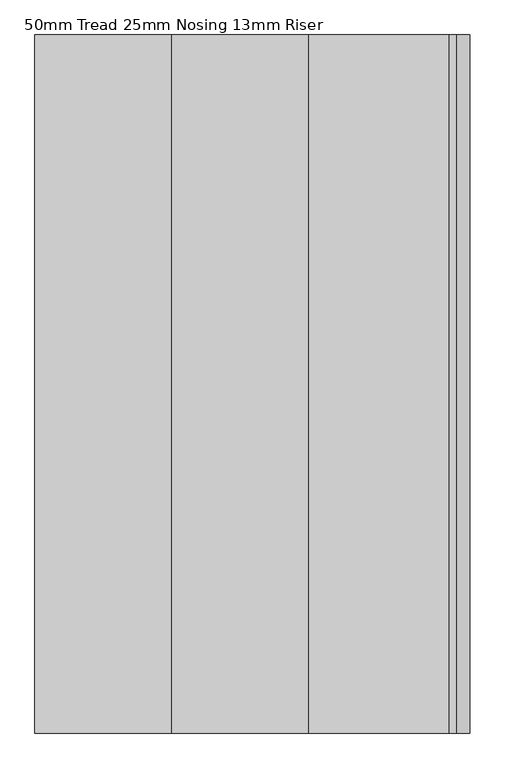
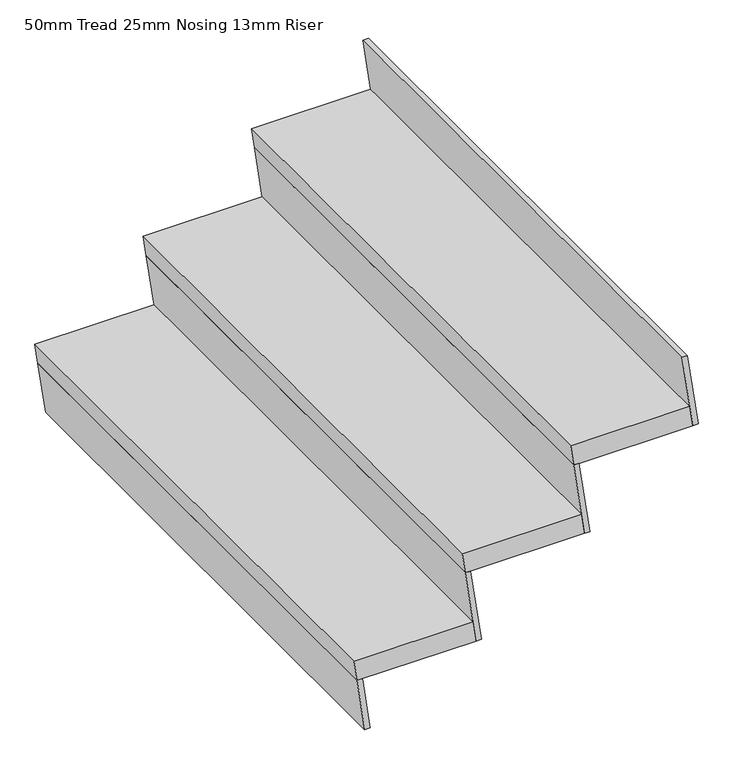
"""IFC4 building model written with IfcOpenShell, lengths in millimetres: stair flight geometry, 50mm Tread 25mm Nosing 13mm Riser."""

import ifcopenshell
import ifcopenshell.guid

model = None  # the IFC model being written
_history = None  # IfcOwnerHistory: only IFC2X3 demands one
_inside = {}  # id of a spatial element -> (the spatial element, [elements in it])
_under = {}  # id of a project, library or spatial element -> (it, [spatial elements below it])
_declared = {}  # id of a project -> (the project, [libraries it declares])
_typed = {}  # id of a type object -> (the type object, [elements of that type])
_made_of = {}  # id of a material, layer set ... -> (it, [elements and type objects made of it])


def new_model(schema):
    """Start an empty IFC model of exactly this schema.

    Asked for "IFC4X3", IfcOpenShell would pick the latest addendum, in which some entities
    have other attributes; the version numbers below select the first issue.
    IFC2X3 requires an IfcOwnerHistory on every rooted entity: one is made here for all.
    """
    global model, _history
    if schema == "IFC4X3":
        model = ifcopenshell.file(schema_version=(4, 3, 0, 0))
    else:
        model = ifcopenshell.file(schema=schema)
    _inside.clear()
    _under.clear()
    _declared.clear()
    _typed.clear()
    _made_of.clear()
    _history = None
    if model.schema == "IFC2X3":
        org = make("IfcOrganization", Name="unknown")
        user = make(
            "IfcPersonAndOrganization",
            ThePerson=make("IfcPerson", FamilyName="unknown"),
            TheOrganization=org,
        )
        app = make(
            "IfcApplication",
            ApplicationDeveloper=org,
            Version="unknown",
            ApplicationFullName="unknown",
            ApplicationIdentifier="unknown",
        )
        _history = make(
            "IfcOwnerHistory",
            OwningUser=user,
            OwningApplication=app,
            ChangeAction="ADDED",
            CreationDate=0,
        )
    return model


def make(cls, **values):
    """One entity of the class cls with the attributes given. An attribute that is None is left unset."""
    return model.create_entity(
        cls, **{name: value for name, value in values.items() if value is not None}
    )


def rooted(cls, **values):
    """An entity with a GlobalId (a new one), such as an element, a storey or a relation."""
    return make(cls, GlobalId=ifcopenshell.guid.new(), OwnerHistory=_history, **values)


def si_unit(unit_type, name, prefix=None):
    """IfcSIUnit, for example si_unit("LENGTHUNIT", "METRE", prefix="MILLI")."""
    return make("IfcSIUnit", UnitType=unit_type, Prefix=prefix, Name=name)


def assignment(units):
    """IfcUnitAssignment: the units of a project."""
    return None if units is None else make("IfcUnitAssignment", Units=units)


def point(xyz):
    """IfcCartesianPoint."""
    return None if xyz is None else make("IfcCartesianPoint", Coordinates=xyz)


def direction(xyz):
    """IfcDirection."""
    return None if xyz is None else make("IfcDirection", DirectionRatios=xyz)


def frame(location, z_axis=None, x_axis=None):
    """IfcAxis2Placement3D, a coordinate frame: its origin and axes. An axis left out is left unset."""
    return make(
        "IfcAxis2Placement3D",
        Location=point(location),
        Axis=direction(z_axis),
        RefDirection=direction(x_axis),
    )


def origin():
    """The frame at (0, 0, 0) with its axes left unset."""
    return frame((0.0, 0.0, 0.0))


def place(relative_to, where):
    """IfcLocalPlacement: puts the frame where relative to a parent placement (None: the world)."""
    return make(
        "IfcLocalPlacement", PlacementRelTo=relative_to, RelativePlacement=where
    )


def context(
    kind, dimensions, precision=None, world=None, true_north=None, identifier=None
):
    """IfcGeometricRepresentationContext, for example the 3D "Model" context."""
    return make(
        "IfcGeometricRepresentationContext",
        ContextIdentifier=identifier,
        ContextType=kind,
        CoordinateSpaceDimension=dimensions,
        Precision=precision,
        WorldCoordinateSystem=world,
        TrueNorth=true_north,
    )


def project(units=None, contexts=None):
    """IfcProject with its units and contexts."""
    return rooted(
        "IfcProject",
        Name="project",
        RepresentationContexts=contexts,
        UnitsInContext=assignment(units),
    )


def spatial(cls, under=None, at=None, **own):
    """A site, building, storey or space (cls), placed at a placement, below another one or the project."""
    s = rooted(cls, ObjectPlacement=at, **own)
    if under is not None:
        _under.setdefault(under.id(), (under, []))[1].append(s)
    return s


def polyline(points):
    """IfcPolyline through the points."""
    return make("IfcPolyline", Points=[point(p) for p in points])


def outline(outer, holes=None, kind="AREA"):
    """IfcArbitraryClosedProfileDef: a profile drawn as a closed curve; with holes, ...WithVoids."""
    if holes is None:
        return make("IfcArbitraryClosedProfileDef", ProfileType=kind, OuterCurve=outer)
    return make(
        "IfcArbitraryProfileDefWithVoids",
        ProfileType=kind,
        OuterCurve=outer,
        InnerCurves=holes,
    )


def extrude(swept, where, along, depth):
    """IfcExtrudedAreaSolid: the profile swept, set in the frame where, extruded along a direction by depth."""
    return make(
        "IfcExtrudedAreaSolid",
        SweptArea=swept,
        Position=where,
        ExtrudedDirection=direction(along),
        Depth=depth,
    )


def shape(context_of_items, identifier, shape_type, items):
    """IfcShapeRepresentation: the items that make up one representation, for example the "Body"."""
    return make(
        "IfcShapeRepresentation",
        ContextOfItems=context_of_items,
        RepresentationIdentifier=identifier,
        RepresentationType=shape_type,
        Items=items,
    )


def source(mapping_origin, context_of_items, identifier, shape_type, items):
    """IfcRepresentationMap: a shape defined once, which mapped items show again and again."""
    return make(
        "IfcRepresentationMap",
        MappingOrigin=mapping_origin,
        MappedRepresentation=shape(context_of_items, identifier, shape_type, items),
    )


def transform(
    local_origin,
    x_axis=None,
    y_axis=None,
    z_axis=None,
    scale=None,
    scale2=None,
    scale3=None,
    uniform=True,
):
    """IfcCartesianTransformationOperator3D, or its non-uniform kind. x_axis, y_axis, z_axis: its Axis1, 2, 3."""
    if uniform:
        return make(
            "IfcCartesianTransformationOperator3D",
            Axis1=direction(x_axis),
            Axis2=direction(y_axis),
            LocalOrigin=point(local_origin),
            Scale=scale,
            Axis3=direction(z_axis),
        )
    return make(
        "IfcCartesianTransformationOperator3DnonUniform",
        Axis1=direction(x_axis),
        Axis2=direction(y_axis),
        LocalOrigin=point(local_origin),
        Scale=scale,
        Axis3=direction(z_axis),
        Scale2=scale2,
        Scale3=scale3,
    )


def mapped(mapping_source, mapping_target):
    """IfcMappedItem: shows the shape of a source again, moved by a transform."""
    return make(
        "IfcMappedItem", MappingSource=mapping_source, MappingTarget=mapping_target
    )


def made_of(thing, what):
    """Note that an element or type object is made of a material, layer set ...; save() writes the relation."""
    if what is not None:
        _made_of.setdefault(what.id(), (what, []))[1].append(thing)
    return thing


def element(
    cls,
    number,
    at=None,
    inside=None,
    cuts=None,
    type_object=None,
    material=None,
    context=None,
    identifier="Body",
    shape_type=None,
    held_by="IfcProductDefinitionShape",
    body=None,
    shapes=None,
    **own,
):
    """One element of the class cls, such as IfcWall. Its Tag is "e" and its number.

    at: its placement. inside: the storey or other place that contains it. cuts: it is an
    opening in that element (IfcRelVoidsElement). A single representation is given by context,
    identifier, shape_type and body (its items); several are given by shapes. held_by: the class
    of the entity that holds the representations. save() writes the other relations.
    """
    e = rooted(cls, Tag="e%d" % number, ObjectPlacement=at, **own)
    if body is not None:
        shapes = [shape(context, identifier, shape_type, body)]
    if shapes is not None:
        e.Representation = make(held_by, Representations=shapes)
    if inside is not None:
        _inside.setdefault(inside.id(), (inside, []))[1].append(e)
    if cuts is not None:
        rooted(
            "IfcRelVoidsElement", RelatingBuildingElement=cuts, RelatedOpeningElement=e
        )
    if type_object is not None:
        _typed.setdefault(type_object.id(), (type_object, []))[1].append(e)
    return made_of(e, material)


def aggregate(whole, parts):
    """IfcRelAggregates: a whole, such as a stair, and the parts it consists of."""
    return rooted("IfcRelAggregates", RelatingObject=whole, RelatedObjects=parts)


def save(model, path):
    """Write the relations noted so far, then the file.

    IfcRelAggregates (storeys below a building ...), IfcRelContainedInSpatialStructure (elements
    in a storey), IfcRelDefinesByType, IfcRelAssociatesMaterial and IfcRelDeclares: one each for
    every whole, place, type object, material and project.
    """
    for whole, parts in _under.values():
        aggregate(whole, parts)
    for where, things in _inside.values():
        rooted(
            "IfcRelContainedInSpatialStructure",
            RelatedElements=things,
            RelatingStructure=where,
        )
    for kind, things in _typed.values():
        rooted("IfcRelDefinesByType", RelatedObjects=things, RelatingType=kind)
    for what, things in _made_of.values():
        rooted("IfcRelAssociatesMaterial", RelatedObjects=things, RelatingMaterial=what)
    for by, libraries in _declared.values():
        rooted("IfcRelDeclares", RelatingContext=by, RelatedDefinitions=libraries)
    model.write(path)


def stair_flight_50mm_tread_25mm_nosing_13mm_riser_8857c591(model_context):
    return source(origin(), model_context, "Body", "SweptSolid", [
        extrude(outline(polyline([(-1193.8, 13948.0581773), (-1193.8, 13669.0581773), (-1243.8, 13676.0885485), (-1243.8, 13955.0885485), (-1193.8, 13948.0581773)])), frame((0.0, -3779.5090595, 0.0), z_axis=(0.0, 1.0, 0.0), x_axis=(0.0, 0.0, 1.0)), (0.0, 0.0, 1.0), 1295.4),
        extrude(outline(polyline([(-1243.8, 13676.0885485), (-1371.6, 13694.0581773), (-1371.6, 13706.6811378), (-1243.8, 13688.7115091), (-1243.8, 13676.0885485)])), frame((0.0, -3779.5090595, 0.0), z_axis=(0.0, 1.0, 0.0), x_axis=(0.0, 0.0, 1.0)), (0.0, 0.0, 1.0), 1295.4),
        extrude(outline(polyline([(-1066.0, 13930.0885485), (-1243.8, 13955.0885485), (-1243.8, 13967.7115091), (-1066.0, 13942.7115091), (-1066.0, 13930.0885485)])), frame((0.0, -3779.5090595, 0.0), z_axis=(0.0, 1.0, 0.0), x_axis=(0.0, 0.0, 1.0)), (0.0, 0.0, 1.0), 1295.4),
        extrude(outline(polyline([(-1016.0, 14202.0581773), (-1016.0, 13923.0581773), (-1066.0, 13930.0885485), (-1066.0, 14209.0885485), (-1016.0, 14202.0581773)])), frame((0.0, -3779.5090595, 0.0), z_axis=(0.0, 1.0, 0.0), x_axis=(0.0, 0.0, 1.0)), (0.0, 0.0, 1.0), 1295.4),
        extrude(outline(polyline([(-888.2, 14184.0885485), (-1066.0, 14209.0885485), (-1066.0, 14221.7115091), (-888.2, 14196.7115091), (-888.2, 14184.0885485)])), frame((0.0, -3779.5090595, 0.0), z_axis=(0.0, 1.0, 0.0), x_axis=(0.0, 0.0, 1.0)), (0.0, 0.0, 1.0), 1295.4),
        extrude(outline(polyline([(-710.4, 14438.0885485), (-888.2, 14463.0885485), (-888.2, 14475.7115091), (-710.4, 14450.7115091), (-710.4, 14438.0885485)])), frame((0.0, -3779.5090595, 0.0), z_axis=(0.0, 1.0, 0.0), x_axis=(0.0, 0.0, 1.0)), (0.0, 0.0, 1.0), 1295.4),
        extrude(outline(polyline([(-838.2, 14456.0581773), (-838.2, 14177.0581773), (-888.2, 14184.0885485), (-888.2, 14463.0885485), (-838.2, 14456.0581773)])), frame((0.0, -3779.5090595, 0.0), z_axis=(0.0, 1.0, 0.0), x_axis=(0.0, 0.0, 1.0)), (0.0, 0.0, 1.0), 1295.4),
    ])


if __name__ == "__main__":
    model = new_model("IFC4")
    model_context = context("Model", 3, world=origin())
    ifc_project = project(units=[si_unit("LENGTHUNIT", "METRE", prefix="MILLI")], contexts=[model_context])
    site = spatial("IfcSite", under=ifc_project)
    building = spatial("IfcBuilding", under=site)
    placement = place(None, origin())
    stair_flight_50mm_tread_25mm_nosing_13mm_riser_shape = stair_flight_50mm_tread_25mm_nosing_13mm_riser_8857c591(model_context)
    element("IfcStairFlight", 1, ObjectType="50mm Tread 25mm Nosing 13mm Riser", at=placement, inside=building, context=model_context, shape_type="MappedRepresentation", body=[
        mapped(stair_flight_50mm_tread_25mm_nosing_13mm_riser_shape, transform((0.0, 0.0, 0.0), x_axis=(1.0, 0.0, 0.0), y_axis=(0.0, 1.0, 0.0), z_axis=(0.0, 0.0, 1.0))),
    ])
    save(model, "model.ifc")
